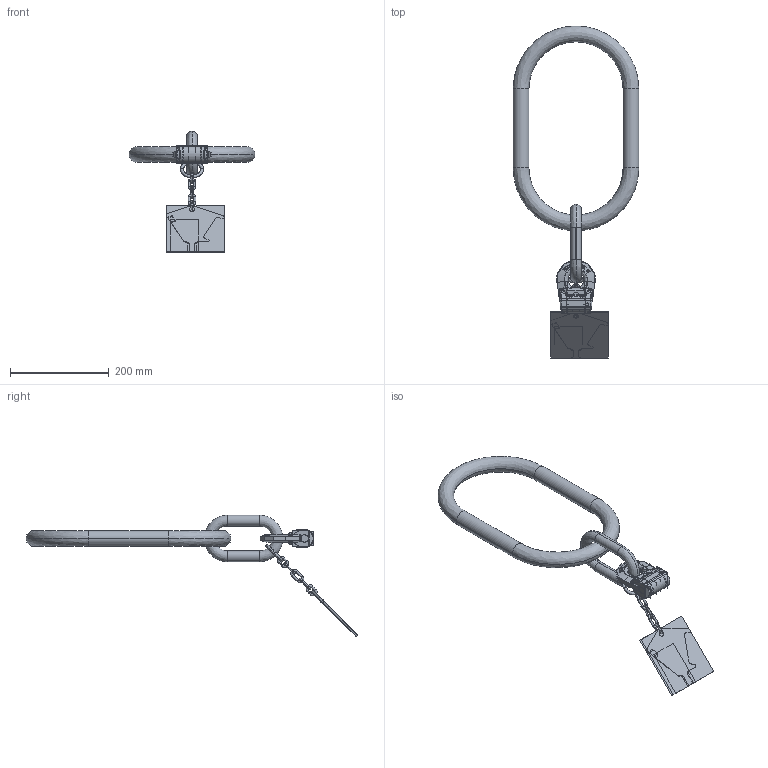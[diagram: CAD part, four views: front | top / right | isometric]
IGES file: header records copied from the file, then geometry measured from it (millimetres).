
Start section:  PTC IGES file: VSAK-1-13_190_7100694_M32080-P-3.igs
Global section: file name: VSAK-1-13_190_7100694_M32080-P-3.igs; native system: Pro/ENGINEER by Parametric Technology Corporation; preprocessor: 2010140; author: Andreas.Wendler; organization: Unknown; date: 20141024.101930; units: millimetre
Bounding box: 254 x 670.7 x 245.7 mm (x, y, z)
Volume: 1109280.6 mm3; surface area: 763182 mm2
Topology: 10 solids, 10 shells, 1130 faces, 5602 edges, 6936 vertices
Faces by surface type: bspline 710, revolution 420
